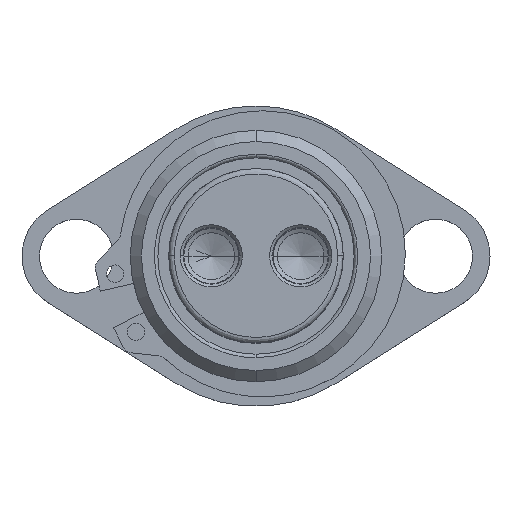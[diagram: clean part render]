
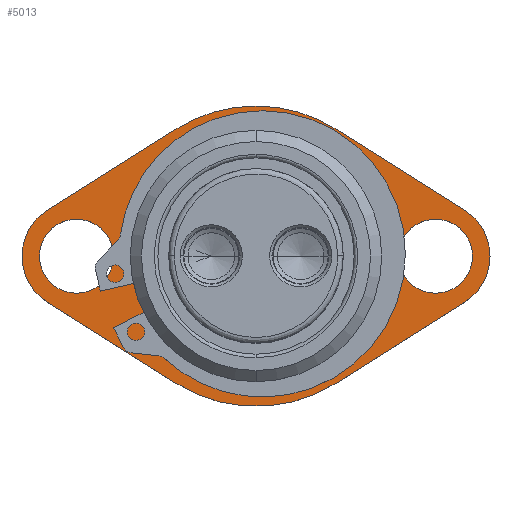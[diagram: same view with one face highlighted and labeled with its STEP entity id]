
A CAD part, top view. The second image highlights one B-rep face of the part: STEP entity #5013.
In plain terms, the highlighted planar face has unit normal (0, 0, 1) as drawn and (0, 1, 0) by its records, which use the part's own axes.
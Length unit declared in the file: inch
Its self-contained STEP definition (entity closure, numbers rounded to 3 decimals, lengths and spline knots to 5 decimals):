
#3 = CARTESIAN_POINT ( 'NONE',  ( 0.57305, 0.25, -0.90952 ) ) ;
#45 = CARTESIAN_POINT ( 'NONE',  ( 0., 0.25, 0.9 ) ) ;
#49 = AXIS2_PLACEMENT_3D ( 'NONE', #3602, #3649, #3155 ) ;
#188 = VERTEX_POINT ( 'NONE', #421 ) ;
#212 = VERTEX_POINT ( 'NONE', #882 ) ;
#215 = ORIENTED_EDGE ( 'NONE', *, *, #2149, .T. ) ;
#252 = ORIENTED_EDGE ( 'NONE', *, *, #2270, .F. ) ;
#271 = VERTEX_POINT ( 'NONE', #2624 ) ;
#333 = CARTESIAN_POINT ( 'NONE',  ( 1.285, 0.25, 0. ) ) ;
#347 = EDGE_CURVE ( 'NONE', #3692, #271, #1658, .T. ) ;
#362 = AXIS2_PLACEMENT_3D ( 'NONE', #1575, #5567, #2520 ) ;
#398 = DIRECTION ( 'NONE',  ( 0., 0., -1. ) ) ;
#421 = CARTESIAN_POINT ( 'NONE',  ( 1.285, 0.25, 0.265 ) ) ;
#484 = ORIENTED_EDGE ( 'NONE', *, *, #4914, .T. ) ;
#491 = ORIENTED_EDGE ( 'NONE', *, *, #1441, .T. ) ;
#503 = ORIENTED_EDGE ( 'NONE', *, *, #5746, .T. ) ;
#541 = CARTESIAN_POINT ( 'NONE',  ( 0.57305, 0.25, 0.90952 ) ) ;
#581 = EDGE_LOOP ( 'NONE', ( #491, #869 ) ) ;
#711 = DIRECTION ( 'NONE',  ( 0., 0., -1. ) ) ;
#712 = EDGE_LOOP ( 'NONE', ( #503, #484 ) ) ;
#869 = ORIENTED_EDGE ( 'NONE', *, *, #4373, .T. ) ;
#882 = CARTESIAN_POINT ( 'NONE',  ( -1.285, 0.25, 0.265 ) ) ;
#920 = VERTEX_POINT ( 'NONE', #2026 ) ;
#938 = EDGE_CURVE ( 'NONE', #3068, #212, #3524, .T. ) ;
#1099 = ORIENTED_EDGE ( 'NONE', *, *, #2167, .T. ) ;
#1136 = CIRCLE ( 'NONE', #3258, 1.075 ) ;
#1350 = FACE_BOUND ( 'NONE', #712, .T. ) ;
#1441 = EDGE_CURVE ( 'NONE', #4859, #188, #1753, .T. ) ;
#1442 = VERTEX_POINT ( 'NONE', #3069 ) ;
#1469 = DIRECTION ( 'NONE',  ( 0., -1., 0. ) ) ;
#1473 = CIRCLE ( 'NONE', #4477, 0.265 ) ;
#1490 = AXIS2_PLACEMENT_3D ( 'NONE', #333, #4398, #2563 ) ;
#1575 = CARTESIAN_POINT ( 'NONE',  ( -1.285, 0.25, 0. ) ) ;
#1658 = CIRCLE ( 'NONE', #49, 0.39 ) ;
#1753 = CIRCLE ( 'NONE', #3779, 0.265 ) ;
#1809 = EDGE_CURVE ( 'NONE', #4239, #3729, #1816, .T. ) ;
#1816 = CIRCLE ( 'NONE', #3184, 1.075 ) ;
#1867 = ORIENTED_EDGE ( 'NONE', *, *, #2542, .F. ) ;
#1875 = CARTESIAN_POINT ( 'NONE',  ( 1.285, 0.25, -0.265 ) ) ;
#1903 = DIRECTION ( 'NONE',  ( 0., -1., 0. ) ) ;
#2018 = EDGE_CURVE ( 'NONE', #3740, #3729, #5398, .T. ) ;
#2026 = CARTESIAN_POINT ( 'NONE',  ( 0.57305, 0.25, 0.90952 ) ) ;
#2041 = DIRECTION ( 'NONE',  ( 0., 0., -1. ) ) ;
#2054 = CARTESIAN_POINT ( 'NONE',  ( 0., 0.25, -1.075 ) ) ;
#2069 = PLANE ( 'NONE',  #362 ) ;
#2082 = DIRECTION ( 'NONE',  ( 0., 0., -1. ) ) ;
#2094 = DIRECTION ( 'NONE',  ( 0., 0., -1. ) ) ;
#2132 = CARTESIAN_POINT ( 'NONE',  ( 1.285, 0.25, 0. ) ) ;
#2149 = EDGE_CURVE ( 'NONE', #920, #5204, #2945, .T. ) ;
#2166 = CARTESIAN_POINT ( 'NONE',  ( 0.57305, 0.25, -0.90952 ) ) ;
#2167 = EDGE_CURVE ( 'NONE', #3692, #5029, #4264, .T. ) ;
#2178 = DIRECTION ( 'NONE',  ( -0.846, 0., -0.533 ) ) ;
#2270 = EDGE_CURVE ( 'NONE', #920, #5029, #2821, .T. ) ;
#2431 = CARTESIAN_POINT ( 'NONE',  ( 0., 0.25, 0. ) ) ;
#2473 = DIRECTION ( 'NONE',  ( 0., 0., -1. ) ) ;
#2493 = AXIS2_PLACEMENT_3D ( 'NONE', #5200, #5668, #2473 ) ;
#2520 = DIRECTION ( 'NONE',  ( 0., 0., 1. ) ) ;
#2542 = EDGE_CURVE ( 'NONE', #1442, #4239, #1136, .T. ) ;
#2554 = CIRCLE ( 'NONE', #1490, 0.39 ) ;
#2563 = DIRECTION ( 'NONE',  ( 0., 0., -1. ) ) ;
#2605 = ORIENTED_EDGE ( 'NONE', *, *, #2653, .T. ) ;
#2624 = CARTESIAN_POINT ( 'NONE',  ( -1.4929, 0.25, -0.32997 ) ) ;
#2653 = EDGE_CURVE ( 'NONE', #212, #3068, #1473, .T. ) ;
#2718 = CARTESIAN_POINT ( 'NONE',  ( -1.4929, 0.25, -0.32997 ) ) ;
#2765 = CARTESIAN_POINT ( 'NONE',  ( -1.4929, 0.25, 0.32997 ) ) ;
#2796 = CARTESIAN_POINT ( 'NONE',  ( 0., 0.25, -0.9 ) ) ;
#2821 = CIRCLE ( 'NONE', #4651, 1.075 ) ;
#2856 = ORIENTED_EDGE ( 'NONE', *, *, #347, .F. ) ;
#2945 = LINE ( 'NONE', #541, #5603 ) ;
#3040 = LINE ( 'NONE', #2718, #4375 ) ;
#3068 = VERTEX_POINT ( 'NONE', #4677 ) ;
#3069 = CARTESIAN_POINT ( 'NONE',  ( -0.57305, 0.25, -0.90952 ) ) ;
#3155 = DIRECTION ( 'NONE',  ( 0., 0., -1. ) ) ;
#3174 = ORIENTED_EDGE ( 'NONE', *, *, #4362, .F. ) ;
#3184 = AXIS2_PLACEMENT_3D ( 'NONE', #2431, #5557, #2041 ) ;
#3258 = AXIS2_PLACEMENT_3D ( 'NONE', #3432, #3863, #2094 ) ;
#3312 = CIRCLE ( 'NONE', #4825, 0.9 ) ;
#3432 = CARTESIAN_POINT ( 'NONE',  ( 0., 0.25, 0. ) ) ;
#3524 = CIRCLE ( 'NONE', #2493, 0.265 ) ;
#3594 = DIRECTION ( 'NONE',  ( 0.846, 0., 0.533 ) ) ;
#3602 = CARTESIAN_POINT ( 'NONE',  ( -1.285, 0.25, 0. ) ) ;
#3603 = ORIENTED_EDGE ( 'NONE', *, *, #938, .T. ) ;
#3649 = DIRECTION ( 'NONE',  ( 0., -1., 0. ) ) ;
#3656 = DIRECTION ( 'NONE',  ( 0.846, 0., -0.533 ) ) ;
#3685 = ORIENTED_EDGE ( 'NONE', *, *, #5719, .T. ) ;
#3692 = VERTEX_POINT ( 'NONE', #5329 ) ;
#3729 = VERTEX_POINT ( 'NONE', #2166 ) ;
#3740 = VERTEX_POINT ( 'NONE', #5761 ) ;
#3745 = ORIENTED_EDGE ( 'NONE', *, *, #1809, .F. ) ;
#3779 = AXIS2_PLACEMENT_3D ( 'NONE', #4465, #4498, #4012 ) ;
#3829 = DIRECTION ( 'NONE',  ( 0., -1., 0. ) ) ;
#3862 = FACE_BOUND ( 'NONE', #581, .T. ) ;
#3863 = DIRECTION ( 'NONE',  ( 0., -1., 0. ) ) ;
#3873 = CARTESIAN_POINT ( 'NONE',  ( 1.4929, 0.25, 0.32997 ) ) ;
#3878 = VERTEX_POINT ( 'NONE', #45 ) ;
#3880 = DIRECTION ( 'NONE',  ( 0., -1., 0. ) ) ;
#3932 = FACE_BOUND ( 'NONE', #4408, .T. ) ;
#4012 = DIRECTION ( 'NONE',  ( 0., 0., -1. ) ) ;
#4087 = VERTEX_POINT ( 'NONE', #2796 ) ;
#4195 = CARTESIAN_POINT ( 'NONE',  ( 0., 0.25, 0. ) ) ;
#4200 = DIRECTION ( 'NONE',  ( 0., 0., -1. ) ) ;
#4239 = VERTEX_POINT ( 'NONE', #2054 ) ;
#4260 = AXIS2_PLACEMENT_3D ( 'NONE', #2132, #3880, #398 ) ;
#4264 = LINE ( 'NONE', #2765, #4762 ) ;
#4289 = CARTESIAN_POINT ( 'NONE',  ( -0.57305, 0.25, 0.90952 ) ) ;
#4362 = EDGE_CURVE ( 'NONE', #3740, #5204, #2554, .T. ) ;
#4373 = EDGE_CURVE ( 'NONE', #188, #4859, #4916, .T. ) ;
#4375 = VECTOR ( 'NONE', #4918, 39.37008 ) ;
#4398 = DIRECTION ( 'NONE',  ( 0., -1., 0. ) ) ;
#4408 = EDGE_LOOP ( 'NONE', ( #3603, #2605 ) ) ;
#4465 = CARTESIAN_POINT ( 'NONE',  ( 1.285, 0.25, 0. ) ) ;
#4477 = AXIS2_PLACEMENT_3D ( 'NONE', #5238, #3829, #2082 ) ;
#4498 = DIRECTION ( 'NONE',  ( 0., -1., 0. ) ) ;
#4576 = CIRCLE ( 'NONE', #5153, 0.9 ) ;
#4651 = AXIS2_PLACEMENT_3D ( 'NONE', #5058, #1903, #4200 ) ;
#4677 = CARTESIAN_POINT ( 'NONE',  ( -1.285, 0.25, -0.265 ) ) ;
#4712 = CARTESIAN_POINT ( 'NONE',  ( 0., 0.25, 0. ) ) ;
#4762 = VECTOR ( 'NONE', #3594, 39.37008 ) ;
#4825 = AXIS2_PLACEMENT_3D ( 'NONE', #4195, #1469, #5036 ) ;
#4859 = VERTEX_POINT ( 'NONE', #1875 ) ;
#4914 = EDGE_CURVE ( 'NONE', #3878, #4087, #4576, .T. ) ;
#4916 = CIRCLE ( 'NONE', #4260, 0.265 ) ;
#4918 = DIRECTION ( 'NONE',  ( -0.846, 0., 0.533 ) ) ;
#4981 = FACE_OUTER_BOUND ( 'NONE', #5656, .T. ) ;
#5013 = ADVANCED_FACE ( 'NONE', ( #3932, #4981, #3862, #1350 ), #2069, .T. ) ;
#5029 = VERTEX_POINT ( 'NONE', #4289 ) ;
#5036 = DIRECTION ( 'NONE',  ( 0., 0., -1. ) ) ;
#5058 = CARTESIAN_POINT ( 'NONE',  ( 0., 0.25, 0. ) ) ;
#5109 = DIRECTION ( 'NONE',  ( 0., -1., 0. ) ) ;
#5153 = AXIS2_PLACEMENT_3D ( 'NONE', #4712, #5109, #711 ) ;
#5200 = CARTESIAN_POINT ( 'NONE',  ( -1.285, 0.25, 0. ) ) ;
#5204 = VERTEX_POINT ( 'NONE', #3873 ) ;
#5238 = CARTESIAN_POINT ( 'NONE',  ( -1.285, 0.25, 0. ) ) ;
#5329 = CARTESIAN_POINT ( 'NONE',  ( -1.4929, 0.25, 0.32997 ) ) ;
#5398 = LINE ( 'NONE', #3, #5744 ) ;
#5557 = DIRECTION ( 'NONE',  ( 0., -1., 0. ) ) ;
#5567 = DIRECTION ( 'NONE',  ( 0., 1., 0. ) ) ;
#5603 = VECTOR ( 'NONE', #3656, 39.37008 ) ;
#5656 = EDGE_LOOP ( 'NONE', ( #1867, #3685, #2856, #1099, #252, #215, #3174, #5732, #3745 ) ) ;
#5668 = DIRECTION ( 'NONE',  ( 0., -1., 0. ) ) ;
#5719 = EDGE_CURVE ( 'NONE', #1442, #271, #3040, .T. ) ;
#5732 = ORIENTED_EDGE ( 'NONE', *, *, #2018, .T. ) ;
#5744 = VECTOR ( 'NONE', #2178, 39.37008 ) ;
#5746 = EDGE_CURVE ( 'NONE', #4087, #3878, #3312, .T. ) ;
#5761 = CARTESIAN_POINT ( 'NONE',  ( 1.4929, 0.25, -0.32997 ) ) ;
